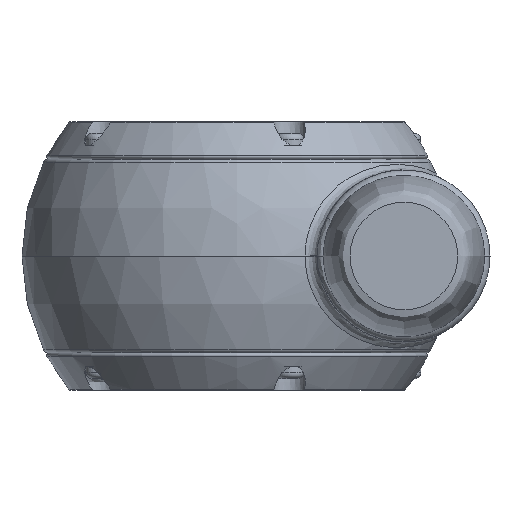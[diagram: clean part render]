
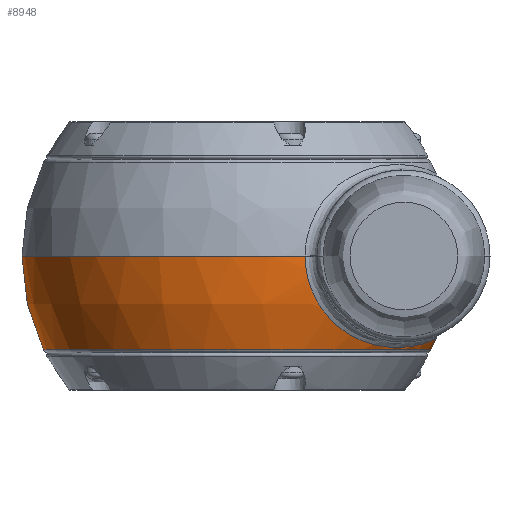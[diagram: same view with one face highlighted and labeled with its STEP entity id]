
A CAD part, left-side view. The second image highlights one B-rep face of the part: STEP entity #8948.
In plain terms, the highlighted spherical face has radius 40 mm.
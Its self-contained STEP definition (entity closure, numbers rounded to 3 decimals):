
#1881=B_SPLINE_CURVE_WITH_KNOTS('',3,(#14411,#14412,#14413,#14414,#14415,
#14416,#14417,#14418,#14419,#14420,#14421,#14422,#14423,#14424,#14425,#14426),
 .UNSPECIFIED.,.F.,.F.,(4,1,1,1,1,1,1,1,1,1,1,1,1,4),(-11.771,
-10.944,-10.116,-9.289,-8.462,
-7.635,-6.807,-5.704,-5.153,
-3.498,-2.671,-1.844,-1.016,
-0.189),.UNSPECIFIED.);
#1968=SPHERICAL_SURFACE('',#9922,40.);
#2009=FACE_OUTER_BOUND('',#2535,.T.);
#2535=EDGE_LOOP('',(#6248,#6249,#6250,#6251,#6252,#6253,#6254));
#3211=CIRCLE('',#9919,36.);
#3212=CIRCLE('',#9920,36.);
#3214=CIRCLE('',#9923,40.);
#3215=CIRCLE('',#9924,40.);
#3216=CIRCLE('',#9925,40.);
#3983=VERTEX_POINT('',#14399);
#3984=VERTEX_POINT('',#14401);
#3985=VERTEX_POINT('',#14406);
#3986=VERTEX_POINT('',#14408);
#3987=VERTEX_POINT('',#14410);
#4913=EDGE_CURVE('',#3983,#3984,#3211,.T.);
#4914=EDGE_CURVE('',#3984,#3983,#3212,.T.);
#4916=EDGE_CURVE('',#3983,#3985,#3214,.T.);
#4917=EDGE_CURVE('',#3985,#3986,#3215,.T.);
#4918=EDGE_CURVE('',#3987,#3986,#1881,.T.);
#4919=EDGE_CURVE('',#3987,#3985,#3216,.T.);
#6248=ORIENTED_EDGE('',*,*,#4914,.F.);
#6249=ORIENTED_EDGE('',*,*,#4913,.F.);
#6250=ORIENTED_EDGE('',*,*,#4916,.T.);
#6251=ORIENTED_EDGE('',*,*,#4917,.T.);
#6252=ORIENTED_EDGE('',*,*,#4918,.F.);
#6253=ORIENTED_EDGE('',*,*,#4919,.T.);
#6254=ORIENTED_EDGE('',*,*,#4916,.F.);
#8948=ADVANCED_FACE('',(#2009),#1968,.T.);
#9919=AXIS2_PLACEMENT_3D('',#14402,#11265,#11266);
#9920=AXIS2_PLACEMENT_3D('',#14403,#11267,#11268);
#9922=AXIS2_PLACEMENT_3D('',#14405,#11271,#11272);
#9923=AXIS2_PLACEMENT_3D('',#14407,#11273,#11274);
#9924=AXIS2_PLACEMENT_3D('',#14409,#11275,#11276);
#9925=AXIS2_PLACEMENT_3D('',#14427,#11277,#11278);
#11265=DIRECTION('center_axis',(0.,0.,1.));
#11266=DIRECTION('ref_axis',(0.,1.,0.));
#11267=DIRECTION('center_axis',(0.,0.,1.));
#11268=DIRECTION('ref_axis',(0.,1.,0.));
#11271=DIRECTION('center_axis',(0.,0.,1.));
#11272=DIRECTION('ref_axis',(1.,0.,0.));
#11273=DIRECTION('center_axis',(0.,-1.,0.));
#11274=DIRECTION('ref_axis',(-1.,0.,0.));
#11275=DIRECTION('center_axis',(0.,0.,1.));
#11276=DIRECTION('ref_axis',(0.,1.,0.));
#11277=DIRECTION('center_axis',(0.,0.,1.));
#11278=DIRECTION('ref_axis',(0.,1.,0.));
#14399=CARTESIAN_POINT('',(-36.,0.,17.436));
#14401=CARTESIAN_POINT('',(0.,-36.,17.436));
#14402=CARTESIAN_POINT('Origin',(0.,0.,17.436));
#14403=CARTESIAN_POINT('Origin',(0.,0.,17.436));
#14405=CARTESIAN_POINT('Origin',(0.,0.,0.));
#14406=CARTESIAN_POINT('',(-40.,0.,0.));
#14407=CARTESIAN_POINT('Origin',(0.,0.,0.));
#14408=CARTESIAN_POINT('',(-37.953,-12.632,0.));
#14409=CARTESIAN_POINT('Origin',(0.,0.,0.));
#14410=CARTESIAN_POINT('',(37.953,-12.632,0.));
#14411=CARTESIAN_POINT('Ctrl Pts',(37.953,-12.632,0.));
#14412=CARTESIAN_POINT('Ctrl Pts',(37.953,-12.632,2.639));
#14413=CARTESIAN_POINT('Ctrl Pts',(36.956,-13.929,7.883));
#14414=CARTESIAN_POINT('Ctrl Pts',(33.153,-18.505,13.413));
#14415=CARTESIAN_POINT('Ctrl Pts',(27.99,-23.882,16.349));
#14416=CARTESIAN_POINT('Ctrl Pts',(21.951,-29.021,17.234));
#14417=CARTESIAN_POINT('Ctrl Pts',(15.243,-33.264,16.795));
#14418=CARTESIAN_POINT('Ctrl Pts',(7.095,-36.522,15.654));
#14419=CARTESIAN_POINT('Ctrl Pts',(-0.911,-37.271,
15.23));
#14420=CARTESIAN_POINT('Ctrl Pts',(-11.328,-35.385,16.139));
#14421=CARTESIAN_POINT('Ctrl Pts',(-19.939,-30.731,
17.543));
#14422=CARTESIAN_POINT('Ctrl Pts',(-27.99,-23.883,
16.345));
#14423=CARTESIAN_POINT('Ctrl Pts',(-33.153,-18.504,
13.416));
#14424=CARTESIAN_POINT('Ctrl Pts',(-36.956,-13.929,
7.881));
#14425=CARTESIAN_POINT('Ctrl Pts',(-37.953,-12.632,
2.639));
#14426=CARTESIAN_POINT('Ctrl Pts',(-37.953,-12.632,
0.));
#14427=CARTESIAN_POINT('Origin',(0.,0.,0.));
